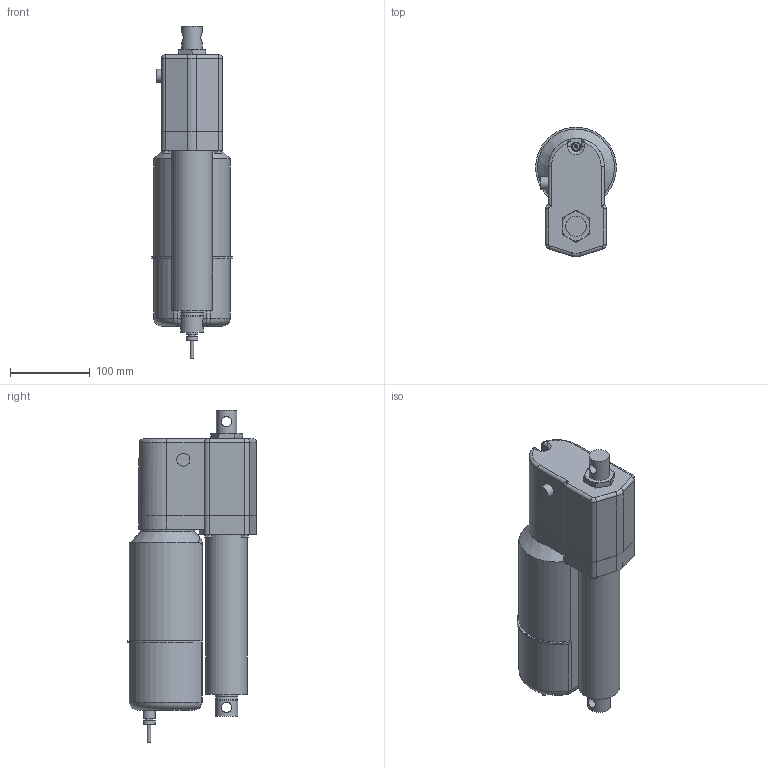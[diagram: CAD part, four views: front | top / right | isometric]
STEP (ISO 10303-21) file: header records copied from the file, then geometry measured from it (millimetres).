
FILE_DESCRIPTION (( 'STEP AP214' ), '1' );
FILE_NAME ('A42-05B5-04M0NPO-tollo.step', '2020-04-06T19:02:15', ( '' ), ( '' ), 'SwSTEP 2.0', 'SolidWorks 2010', '' );
FILE_SCHEMA (( 'AUTOMOTIVE_DESIGN' ));
Length unit declared in the file: millimetre
Products named in the file (7): Electrak-LA5-Motor-A42-05B5-04M0NPO-tollo_Electrak-LA5-Motor-A42-05B5-04M0NPO-tollo; Electrak-LA5-Rear-A42-05B5-04M0NPO-tollo_Electrak-LA5-Rear-A42-05B5-04M0NPO-tollo; Electrak-LA5-Tube-A42-05B5-04M0NPO-tollo_Electrak-LA5-Tube-A42-05B5-04M0NPO-tollo; Electrak-LA5-Rod-A42-05B5-04M0NPO-tollo_Electrak-LA5-Rod-A42-05B5-04M0NPO-tollo; Screw-MFX-H-M5-A42-05B5-04M0NPO-tollo_Screw-MFX-H-M5-A42-05B5-04M0NPO-tollo; Screw-M6S-M5-A42-05B5-04M0NPO-tollo_Screw-M6S-M5-A42-05B5-04M0NPO-tollo; A42-05B5-04M0NPO-tollo
Assembly tree (9 placements, depth 2):
  A42-05B5-04M0NPO-tollo
    Screw-M6S-M5-A42-05B5-04M0NPO-tollo_Screw-M6S-M5-A42-05B5-04M0NPO-tollo  x4
    Electrak-LA5-Motor-A42-05B5-04M0NPO-tollo_Electrak-LA5-Motor-A42-05B5-04M0NPO-tollo
    Electrak-LA5-Rear-A42-05B5-04M0NPO-tollo_Electrak-LA5-Rear-A42-05B5-04M0NPO-tollo
    Screw-MFX-H-M5-A42-05B5-04M0NPO-tollo_Screw-MFX-H-M5-A42-05B5-04M0NPO-tollo
    Electrak-LA5-Tube-A42-05B5-04M0NPO-tollo_Electrak-LA5-Tube-A42-05B5-04M0NPO-tollo
    Electrak-LA5-Rod-A42-05B5-04M0NPO-tollo_Electrak-LA5-Rod-A42-05B5-04M0NPO-tollo
Bounding box: 100.99 x 162.5 x 415.1 mm (x, y, z)
Volume: 3102803.6 mm3; surface area: 242245.4 mm2
Topology: 9 solids, 9 shells, 240 faces, 553 edges, 350 vertices
Faces by surface type: plane 96, cylinder 93, cone 31, torus 15, bspline 3, sphere 2
Full cylindrical faces by diameter (mm): 4 x1, 4.126 x5, 4.8 x2, 5 x13, 7.878 x4, 9.3 x1, 10 x1, 12.8 x2, 15 x2, 16.5 x1, 25.4 x1, 28.6 x4, 51.3 x1, 68 x1
Entity records: 5816 total; most frequent: CARTESIAN_POINT 1727, DIRECTION 814, ORIENTED_EDGE 670, AXIS2_PLACEMENT_3D 343, EDGE_CURVE 335, EDGE_LOOP 249, VERTEX_POINT 238, FACE_OUTER_BOUND 201
